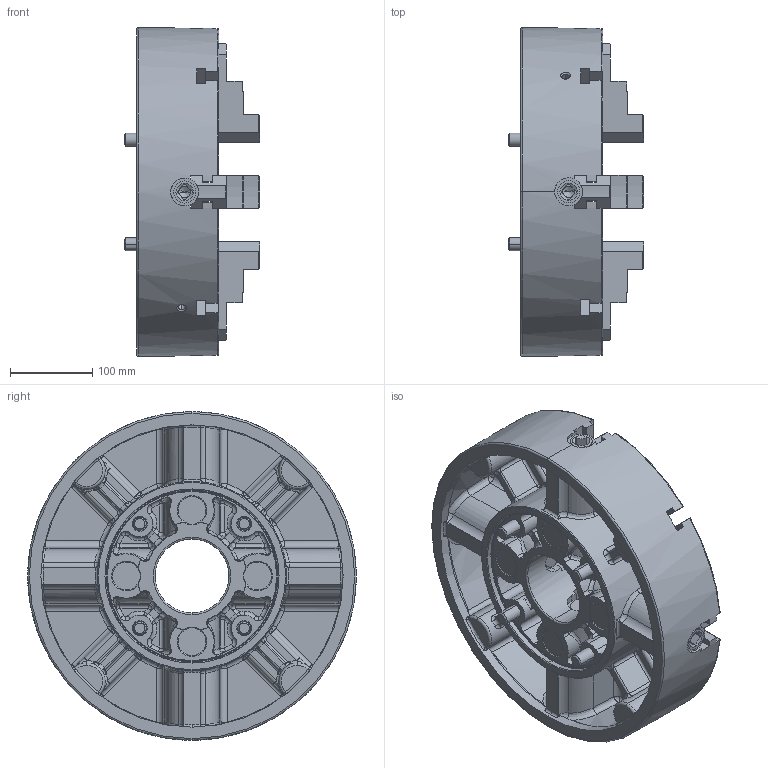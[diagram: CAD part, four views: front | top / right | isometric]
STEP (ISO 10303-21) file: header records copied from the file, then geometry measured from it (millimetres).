
FILE_DESCRIPTION (( 'STEP AP214' ), '1' );
FILE_NAME ('IC-16_61T208721-7.STEP', '2025-11-18T04:17:17', ( '' ), ( '' ), 'SwSTEP 2.0', 'SolidWorks 2022', '' );
FILE_SCHEMA (( 'AUTOMOTIVE_DESIGN' ));
Length unit declared in the file: millimetre
Products named in the file (4): IC-16_61T208721-7; IC-16_ホンタイ提出用; 0030116095; 61T301349-0_ツメ
Assembly tree (9 placements, depth 2):
  IC-16_61T208721-7
    61T301349-0_ツメ  x4
    0030116095  x4
    IC-16_ホンタイ提出用
Bounding box: 165 x 400 x 400 mm (x, y, z)
Volume: 7316558.1 mm3; surface area: 899892.4 mm2
Topology: 9 solids, 9 shells, 1826 faces, 4753 edges, 2920 vertices
Faces by surface type: plane 632, cylinder 436, bspline 292, torus 208, cone 196, sphere 62
Entity records: 67236 total; most frequent: CARTESIAN_POINT 28814, ORIENTED_EDGE 8462, DIRECTION 7533, EDGE_CURVE 4231, AXIS2_PLACEMENT_3D 2917, VERTEX_POINT 2625, EDGE_LOOP 1720, VECTOR 1699
